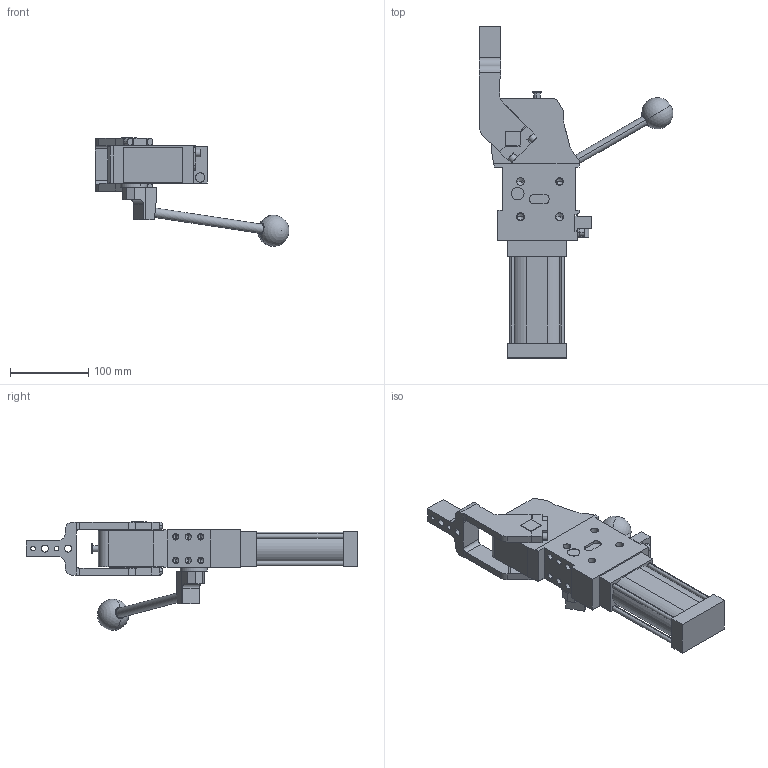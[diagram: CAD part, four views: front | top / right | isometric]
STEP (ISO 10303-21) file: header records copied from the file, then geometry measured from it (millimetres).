
FILE_DESCRIPTION (( 'STEP AP214' ), '1' );
FILE_NAME ('cplm50lbh1ci1g_107.STEP', '2023-01-26T13:14:39', ( '' ), ( '' ), 'SwSTEP 2.0', 'SolidWorks 2022', '' );
FILE_SCHEMA (( 'AUTOMOTIVE_DESIGN' ));
Length unit declared in the file: millimetre
Products named in the file (5): comando_manuale_cplm_50; cplm50lbh1ci1g_107; blocchetto_VEP_0; meccanica_cplm_50; leva_cx_offset_15_cpl50
Assembly tree (4 placements, depth 2):
  cplm50lbh1ci1g_107
    meccanica_cplm_50
    blocchetto_VEP_0
    leva_cx_offset_15_cpl50
    comando_manuale_cplm_50
Bounding box: 247.96 x 424.5 x 139 mm (x, y, z)
Volume: 1459795.2 mm3; surface area: 180083.6 mm2
Topology: 4 solids, 4 shells, 431 faces, 1108 edges, 691 vertices
Faces by surface type: plane 212, cylinder 167, cone 50, sphere 2
Entity records: 14373 total; most frequent: DIRECTION 2287, CARTESIAN_POINT 2253, ORIENTED_EDGE 2114, EDGE_CURVE 1057, AXIS2_PLACEMENT_3D 796, VECTOR 695, LINE 695, VERTEX_POINT 688
